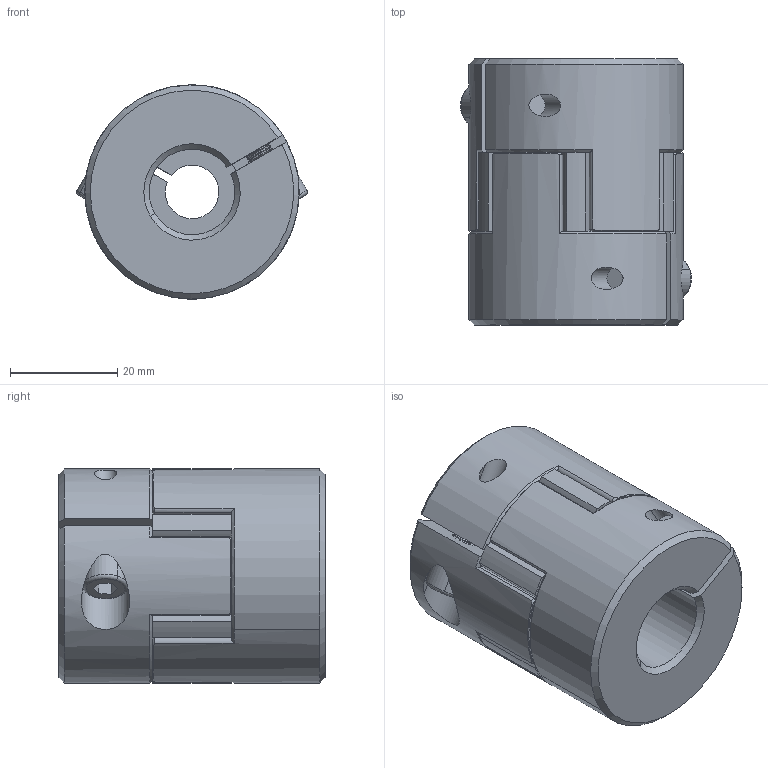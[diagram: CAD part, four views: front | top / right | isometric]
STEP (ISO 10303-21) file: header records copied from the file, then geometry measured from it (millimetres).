
FILE_DESCRIPTION (( 'STEP AP203' ), '1' );
FILE_NAME ('LF-B-D40L50-10-16.STEP', '2021-10-25T02:39:25', ( '' ), ( '' ), 'SwSTEP 2.0', 'SolidWorks 2018', '' );
FILE_SCHEMA (( 'CONFIG_CONTROL_DESIGN' ));
Length unit declared in the file: millimetre
Products named in the file (1): LF-B-D40L50-10-16
Bounding box: 43.11 x 49.7 x 40 mm (x, y, z)
Volume: 52015.9 mm3; surface area: 14634.4 mm2
Topology: 1 solids, 7 shells, 471 faces, 1117 edges, 662 vertices
Faces by surface type: cone 170, cylinder 169, plane 128, torus 4
Entity records: 13972 total; most frequent: CARTESIAN_POINT 2895, DIRECTION 2509, ORIENTED_EDGE 2226, EDGE_CURVE 1113, AXIS2_PLACEMENT_3D 1040, VERTEX_POINT 662, CIRCLE 568, EDGE_LOOP 487
